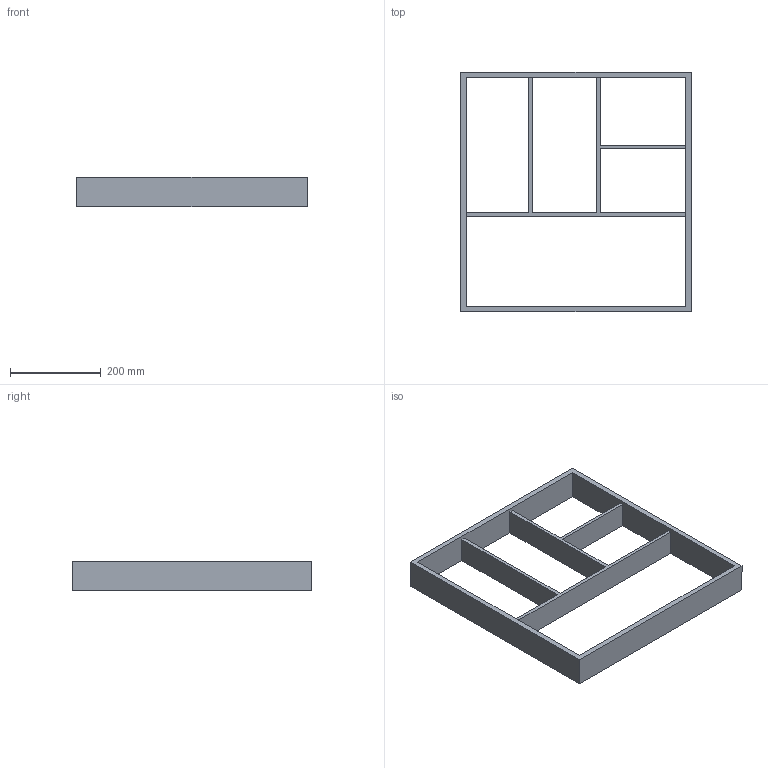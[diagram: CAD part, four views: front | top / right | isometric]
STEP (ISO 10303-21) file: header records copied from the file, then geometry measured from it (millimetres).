
FILE_DESCRIPTION (( 'STEP AP214' ), '1' );
FILE_NAME ('Vario Multi NL550_B600_16 mm_Alu.step', '2010-10-07T06:24:33', ( 'grass' ), ( '' ), 'SwSTEP 2.0', 'SolidWorks 2010', '' );
FILE_SCHEMA (( 'AUTOMOTIVE_DESIGN' ));
Length unit declared in the file: millimetre
Products named in the file (1): Vario Multi NL550_B600_16 mm_Alu
Bounding box: 508 x 529 x 65 mm (x, y, z)
Volume: 2159217.6 mm3; surface area: 473404 mm2
Topology: 1 solids, 1 shells, 22 faces, 72 edges, 48 vertices
Faces by surface type: plane 22
Entity records: 830 total; most frequent: ORIENTED_EDGE 144, CARTESIAN_POINT 143, DIRECTION 118, EDGE_CURVE 72, VECTOR 72, LINE 72, VERTEX_POINT 48, EDGE_LOOP 28
